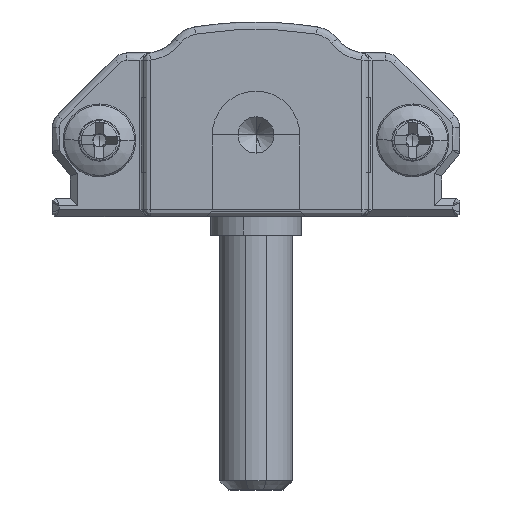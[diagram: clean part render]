
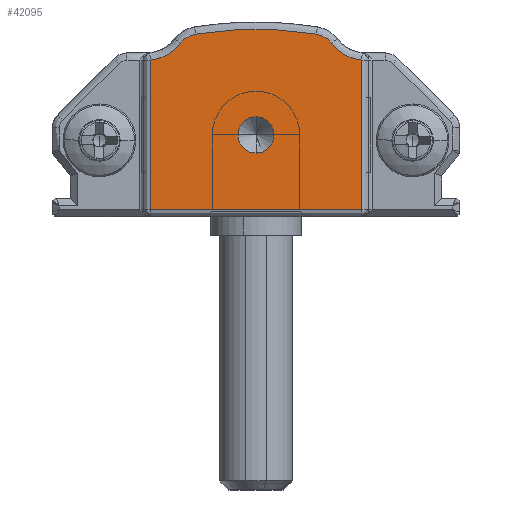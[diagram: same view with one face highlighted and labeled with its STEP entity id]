
A CAD part, front view. The second image highlights one B-rep face of the part: STEP entity #42095.
In plain terms, the highlighted planar face has unit normal (0, -1, 0).
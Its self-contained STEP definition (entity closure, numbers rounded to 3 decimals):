
#554 = VERTEX_POINT ( 'NONE', #39894 ) ;
#727 = LINE ( 'NONE', #40247, #37453 ) ;
#1155 = EDGE_LOOP ( 'NONE', ( #31292, #18840 ) ) ;
#3025 = CARTESIAN_POINT ( 'NONE',  ( 7.068, -15., 9.541 ) ) ;
#3219 = CARTESIAN_POINT ( 'NONE',  ( 22.15, -15., 3.606 ) ) ;
#3504 = DIRECTION ( 'NONE',  ( 0., -1., 0. ) ) ;
#3728 = CARTESIAN_POINT ( 'NONE',  ( 11.2, -15., 4.5 ) ) ;
#3986 = CIRCLE ( 'NONE', #46062, 2.4 ) ;
#3995 = AXIS2_PLACEMENT_3D ( 'NONE', #14092, #10862, #30098 ) ;
#4786 = DIRECTION ( 'NONE',  ( 0., 0., 1. ) ) ;
#4971 = ORIENTED_EDGE ( 'NONE', *, *, #14588, .T. ) ;
#5041 = AXIS2_PLACEMENT_3D ( 'NONE', #3728, #3504, #21525 ) ;
#5489 = AXIS2_PLACEMENT_3D ( 'NONE', #3219, #41573, #27377 ) ;
#5628 = EDGE_CURVE ( 'NONE', #24584, #554, #31410, .T. ) ;
#5788 = VERTEX_POINT ( 'NONE', #37302 ) ;
#6956 = VECTOR ( 'NONE', #4786, 1000. ) ;
#7559 = ORIENTED_EDGE ( 'NONE', *, *, #8998, .T. ) ;
#8448 = AXIS2_PLACEMENT_3D ( 'NONE', #28318, #42738, #10511 ) ;
#8840 = AXIS2_PLACEMENT_3D ( 'NONE', #14491, #25094, #39469 ) ;
#8998 = EDGE_CURVE ( 'NONE', #32068, #23304, #37792, .T. ) ;
#9277 = CARTESIAN_POINT ( 'NONE',  ( 5.162, -15., 11. ) ) ;
#10511 = DIRECTION ( 'NONE',  ( 0., 0., -1. ) ) ;
#10862 = DIRECTION ( 'NONE',  ( 0., -1., 0. ) ) ;
#11034 = CARTESIAN_POINT ( 'NONE',  ( 17., -15., 0.4 ) ) ;
#11050 = CIRCLE ( 'NONE', #5041, 1. ) ;
#11445 = CARTESIAN_POINT ( 'NONE',  ( 17.238, -15., 11. ) ) ;
#11894 = CARTESIAN_POINT ( 'NONE',  ( 11.2, -15., 4.5 ) ) ;
#11897 = AXIS2_PLACEMENT_3D ( 'NONE', #11894, #40623, #39664 ) ;
#12036 = ORIENTED_EDGE ( 'NONE', *, *, #24552, .T. ) ;
#12368 = EDGE_CURVE ( 'NONE', #5788, #19281, #14063, .T. ) ;
#12786 = VERTEX_POINT ( 'NONE', #45415 ) ;
#14063 = CIRCLE ( 'NONE', #8840, 1.3 ) ;
#14092 = CARTESIAN_POINT ( 'NONE',  ( 8.1, -15., 8.75 ) ) ;
#14224 = DIRECTION ( 'NONE',  ( 0., 1., 0. ) ) ;
#14491 = CARTESIAN_POINT ( 'NONE',  ( 14.3, -15., 8.75 ) ) ;
#14588 = EDGE_CURVE ( 'NONE', #20955, #16405, #727, .T. ) ;
#16344 = CIRCLE ( 'NONE', #35101, 2.4 ) ;
#16405 = VERTEX_POINT ( 'NONE', #28413 ) ;
#17312 = CARTESIAN_POINT ( 'NONE',  ( 5.4, -15., 8.612 ) ) ;
#17466 = CARTESIAN_POINT ( 'NONE',  ( 11.2, -15., 3.5 ) ) ;
#17802 = LINE ( 'NONE', #11034, #46102 ) ;
#18275 = EDGE_CURVE ( 'NONE', #16405, #35855, #17802, .T. ) ;
#18840 = ORIENTED_EDGE ( 'NONE', *, *, #38511, .F. ) ;
#19281 = VERTEX_POINT ( 'NONE', #34729 ) ;
#20500 = DIRECTION ( 'NONE',  ( 0., 1., 0. ) ) ;
#20955 = VERTEX_POINT ( 'NONE', #17312 ) ;
#21525 = DIRECTION ( 'NONE',  ( 0., 0., -1. ) ) ;
#22189 = DIRECTION ( 'NONE',  ( 0., 0., -1. ) ) ;
#23042 = LINE ( 'NONE', #44763, #6956 ) ;
#23304 = VERTEX_POINT ( 'NONE', #3025 ) ;
#24552 = EDGE_CURVE ( 'NONE', #23304, #20955, #3986, .T. ) ;
#24584 = VERTEX_POINT ( 'NONE', #17466 ) ;
#24635 = EDGE_CURVE ( 'NONE', #35855, #12786, #23042, .T. ) ;
#25094 = DIRECTION ( 'NONE',  ( 0., -1., 0. ) ) ;
#26437 = CIRCLE ( 'NONE', #8448, 20.676 ) ;
#27377 = DIRECTION ( 'NONE',  ( 0., 0., -1. ) ) ;
#27567 = CARTESIAN_POINT ( 'NONE',  ( 17., -15., 0.4 ) ) ;
#28318 = CARTESIAN_POINT ( 'NONE',  ( 11.2, -15., -10.376 ) ) ;
#28413 = CARTESIAN_POINT ( 'NONE',  ( 5.4, -15., 0.4 ) ) ;
#29216 = EDGE_CURVE ( 'NONE', #19281, #32068, #26437, .T. ) ;
#29798 = PLANE ( 'NONE',  #5489 ) ;
#30098 = DIRECTION ( 'NONE',  ( 0., 0., -1. ) ) ;
#31292 = ORIENTED_EDGE ( 'NONE', *, *, #5628, .F. ) ;
#31331 = DIRECTION ( 'NONE',  ( 0., 0., -1. ) ) ;
#31410 = CIRCLE ( 'NONE', #11897, 1. ) ;
#31731 = ORIENTED_EDGE ( 'NONE', *, *, #24635, .T. ) ;
#32068 = VERTEX_POINT ( 'NONE', #43198 ) ;
#33169 = DIRECTION ( 'NONE',  ( 0., 0., -1. ) ) ;
#33315 = FACE_BOUND ( 'NONE', #1155, .T. ) ;
#33347 = ORIENTED_EDGE ( 'NONE', *, *, #29216, .T. ) ;
#33778 = FACE_OUTER_BOUND ( 'NONE', #40645, .T. ) ;
#34729 = CARTESIAN_POINT ( 'NONE',  ( 14.508, -15., 10.034 ) ) ;
#35101 = AXIS2_PLACEMENT_3D ( 'NONE', #11445, #14224, #22189 ) ;
#35855 = VERTEX_POINT ( 'NONE', #27567 ) ;
#35978 = ORIENTED_EDGE ( 'NONE', *, *, #12368, .T. ) ;
#37302 = CARTESIAN_POINT ( 'NONE',  ( 15.332, -15., 9.541 ) ) ;
#37453 = VECTOR ( 'NONE', #33169, 1000. ) ;
#37456 = ORIENTED_EDGE ( 'NONE', *, *, #39883, .T. ) ;
#37792 = CIRCLE ( 'NONE', #3995, 1.3 ) ;
#38511 = EDGE_CURVE ( 'NONE', #554, #24584, #11050, .T. ) ;
#39469 = DIRECTION ( 'NONE',  ( 0., 0., -1. ) ) ;
#39664 = DIRECTION ( 'NONE',  ( 0., 0., -1. ) ) ;
#39883 = EDGE_CURVE ( 'NONE', #12786, #5788, #16344, .T. ) ;
#39894 = CARTESIAN_POINT ( 'NONE',  ( 11.2, -15., 5.5 ) ) ;
#40247 = CARTESIAN_POINT ( 'NONE',  ( 5.4, -15., 0.4 ) ) ;
#40623 = DIRECTION ( 'NONE',  ( 0., -1., 0. ) ) ;
#40645 = EDGE_LOOP ( 'NONE', ( #31731, #37456, #35978, #33347, #7559, #12036, #4971, #44693 ) ) ;
#41573 = DIRECTION ( 'NONE',  ( 0., -1., 0. ) ) ;
#42095 = ADVANCED_FACE ( 'NONE', ( #33778, #33315 ), #29798, .T. ) ;
#42738 = DIRECTION ( 'NONE',  ( 0., -1., 0. ) ) ;
#43198 = CARTESIAN_POINT ( 'NONE',  ( 7.892, -15., 10.034 ) ) ;
#43280 = DIRECTION ( 'NONE',  ( 1., 0., 0. ) ) ;
#44693 = ORIENTED_EDGE ( 'NONE', *, *, #18275, .T. ) ;
#44763 = CARTESIAN_POINT ( 'NONE',  ( 17., -15., 8.612 ) ) ;
#45415 = CARTESIAN_POINT ( 'NONE',  ( 17., -15., 8.612 ) ) ;
#46062 = AXIS2_PLACEMENT_3D ( 'NONE', #9277, #20500, #31331 ) ;
#46102 = VECTOR ( 'NONE', #43280, 1000. ) ;
